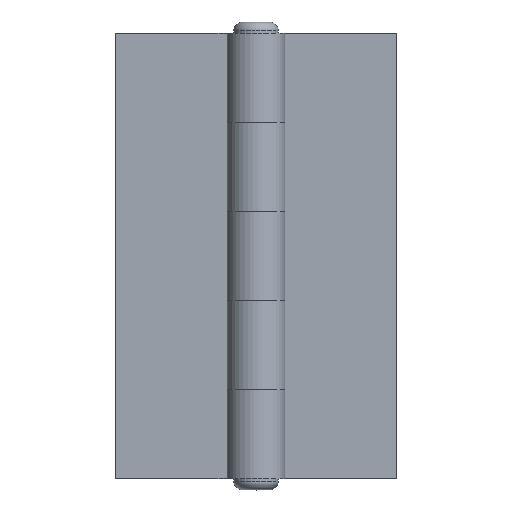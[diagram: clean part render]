
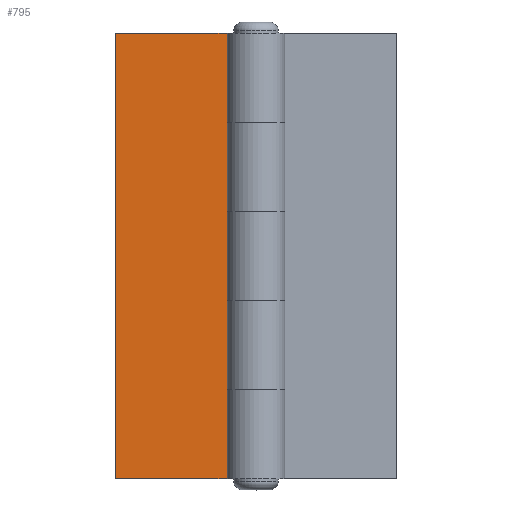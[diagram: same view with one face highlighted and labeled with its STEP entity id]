
A CAD part, top view. The second image highlights one B-rep face of the part: STEP entity #795.
In plain terms, the highlighted planar face has unit normal (0, 0, 1) as drawn and (0, 1, 0) by its records, which use the part's own axes.
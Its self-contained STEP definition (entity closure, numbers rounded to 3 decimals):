
#64=FACE_OUTER_BOUND('',#111,.T.);
#111=EDGE_LOOP('',(#598,#599,#600,#601,#602,#603,#604,#605,#606,#607,#608,
#609));
#154=LINE('',#1164,#236);
#156=LINE('',#1170,#238);
#160=LINE('',#1182,#242);
#164=LINE('',#1193,#246);
#166=LINE('',#1199,#248);
#169=LINE('',#1206,#251);
#173=LINE('',#1218,#255);
#181=LINE('',#1231,#263);
#186=LINE('',#1242,#268);
#188=LINE('',#1245,#270);
#189=LINE('',#1246,#271);
#190=LINE('',#1247,#272);
#236=VECTOR('',#920,6.5);
#238=VECTOR('',#926,20.);
#242=VECTOR('',#936,6.5);
#246=VECTOR('',#944,6.5);
#248=VECTOR('',#950,20.);
#251=VECTOR('',#955,6.5);
#255=VECTOR('',#965,20.);
#263=VECTOR('',#977,20.);
#268=VECTOR('',#990,100.);
#270=VECTOR('',#994,20.);
#271=VECTOR('',#995,25.);
#272=VECTOR('',#996,25.);
#347=VERTEX_POINT('',#1161);
#348=VERTEX_POINT('',#1163);
#350=VERTEX_POINT('',#1169);
#355=VERTEX_POINT('',#1180);
#359=VERTEX_POINT('',#1190);
#360=VERTEX_POINT('',#1192);
#362=VERTEX_POINT('',#1198);
#364=VERTEX_POINT('',#1204);
#365=VERTEX_POINT('',#1205);
#370=VERTEX_POINT('',#1217);
#374=VERTEX_POINT('',#1239);
#375=VERTEX_POINT('',#1241);
#423=EDGE_CURVE('',#348,#347,#154,.T.);
#426=EDGE_CURVE('',#347,#350,#156,.T.);
#432=EDGE_CURVE('',#350,#355,#160,.T.);
#437=EDGE_CURVE('',#360,#359,#164,.T.);
#440=EDGE_CURVE('',#359,#362,#166,.T.);
#443=EDGE_CURVE('',#364,#365,#169,.T.);
#449=EDGE_CURVE('',#370,#364,#173,.T.);
#457=EDGE_CURVE('',#348,#365,#181,.T.);
#462=EDGE_CURVE('',#375,#374,#186,.T.);
#464=EDGE_CURVE('',#360,#355,#188,.T.);
#465=EDGE_CURVE('',#362,#375,#189,.T.);
#466=EDGE_CURVE('',#374,#370,#190,.T.);
#598=ORIENTED_EDGE('',*,*,#432,.T.);
#599=ORIENTED_EDGE('',*,*,#464,.F.);
#600=ORIENTED_EDGE('',*,*,#437,.T.);
#601=ORIENTED_EDGE('',*,*,#440,.T.);
#602=ORIENTED_EDGE('',*,*,#465,.T.);
#603=ORIENTED_EDGE('',*,*,#462,.T.);
#604=ORIENTED_EDGE('',*,*,#466,.T.);
#605=ORIENTED_EDGE('',*,*,#449,.T.);
#606=ORIENTED_EDGE('',*,*,#443,.T.);
#607=ORIENTED_EDGE('',*,*,#457,.F.);
#608=ORIENTED_EDGE('',*,*,#423,.T.);
#609=ORIENTED_EDGE('',*,*,#426,.T.);
#760=PLANE('',#854);
#795=ADVANCED_FACE('',(#64),#760,.T.);
#854=AXIS2_PLACEMENT_3D('',#1244,#992,#993);
#920=DIRECTION('',(-1.,0.,0.));
#926=DIRECTION('',(0.,0.,-1.));
#936=DIRECTION('',(1.,0.,0.));
#944=DIRECTION('',(-1.,0.,0.));
#950=DIRECTION('',(0.,0.,-1.));
#955=DIRECTION('',(1.,0.,0.));
#965=DIRECTION('',(0.,0.,-1.));
#977=DIRECTION('',(0.,0.,1.));
#990=DIRECTION('',(0.,0.,1.));
#992=DIRECTION('center_axis',(0.,1.,0.));
#993=DIRECTION('ref_axis',(0.,0.,1.));
#994=DIRECTION('',(0.,0.,1.));
#995=DIRECTION('',(-1.,0.,0.));
#996=DIRECTION('',(1.,0.,0.));
#1161=CARTESIAN_POINT('',(-6.5,3.,10.));
#1163=CARTESIAN_POINT('',(0.,3.,10.));
#1164=CARTESIAN_POINT('',(-12.5,3.,10.));
#1169=CARTESIAN_POINT('',(-6.5,3.,-10.));
#1170=CARTESIAN_POINT('',(-6.5,3.,5.));
#1180=CARTESIAN_POINT('',(0.,3.,-10.));
#1182=CARTESIAN_POINT('',(-19.,3.,-10.));
#1190=CARTESIAN_POINT('',(-6.5,3.,-30.));
#1192=CARTESIAN_POINT('',(0.,3.,-30.));
#1193=CARTESIAN_POINT('',(-12.5,3.,-30.));
#1198=CARTESIAN_POINT('',(-6.5,3.,-50.));
#1199=CARTESIAN_POINT('',(-6.5,3.,-15.));
#1204=CARTESIAN_POINT('',(-6.5,3.,30.));
#1205=CARTESIAN_POINT('',(0.,3.,30.));
#1206=CARTESIAN_POINT('',(-19.,3.,30.));
#1217=CARTESIAN_POINT('',(-6.5,3.,50.));
#1218=CARTESIAN_POINT('',(-6.5,3.,25.));
#1231=CARTESIAN_POINT('',(0.,3.,0.));
#1239=CARTESIAN_POINT('',(-31.5,3.,50.));
#1241=CARTESIAN_POINT('',(-31.5,3.,-50.));
#1242=CARTESIAN_POINT('',(-31.5,3.,0.));
#1244=CARTESIAN_POINT('Origin',(-31.5,3.,0.));
#1245=CARTESIAN_POINT('',(0.,3.,0.));
#1246=CARTESIAN_POINT('',(0.,3.,-50.));
#1247=CARTESIAN_POINT('',(0.,3.,50.));
